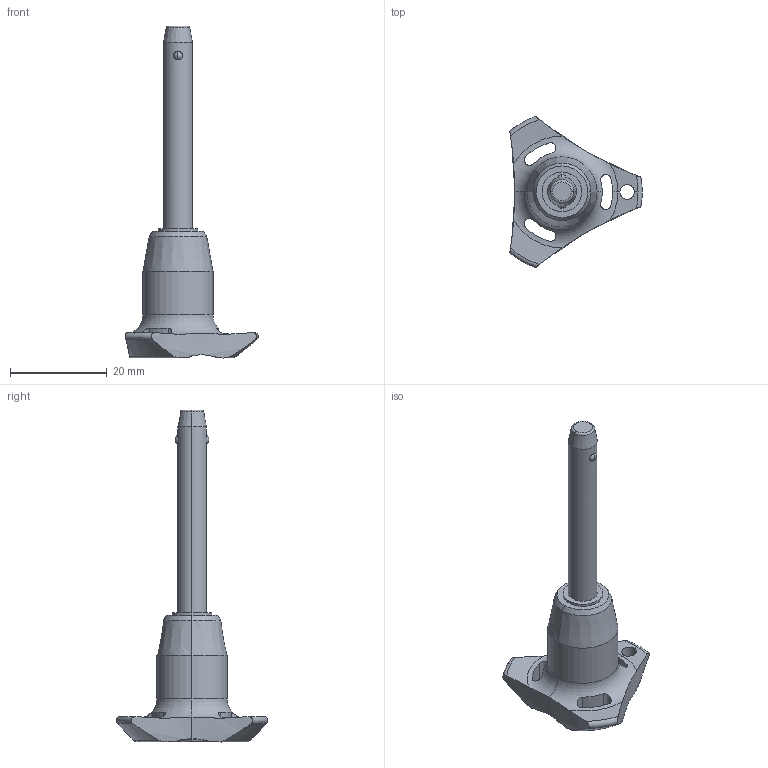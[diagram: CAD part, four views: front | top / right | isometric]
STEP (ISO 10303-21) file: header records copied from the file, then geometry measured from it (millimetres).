
FILE_DESCRIPTION (( 'STEP AP203' ), '1' );
FILE_NAME ('QR1724.M06-035-S.step', '2025-11-12T12:46:05', ( '' ), ( '' ), 'SwSTEP 2.0', 'SolidWorks 2019', '' );
FILE_SCHEMA (( 'CONFIG_CONTROL_DESIGN' ));
Length unit declared in the file: millimetre
Products named in the file (1): QR1724.M06-035-S
Bounding box: 27.4 x 31.31 x 68.7 mm (x, y, z)
Volume: 5955.7 mm3; surface area: 3212.5 mm2
Topology: 1 solids, 1 shells, 66 faces, 181 edges, 115 vertices
Faces by surface type: cylinder 30, cone 14, torus 12, sphere 6, plane 4
Entity records: 2709 total; most frequent: CARTESIAN_POINT 997, ORIENTED_EDGE 362, DIRECTION 332, EDGE_CURVE 181, AXIS2_PLACEMENT_3D 148, VERTEX_POINT 115, CIRCLE 81, EDGE_LOOP 72
